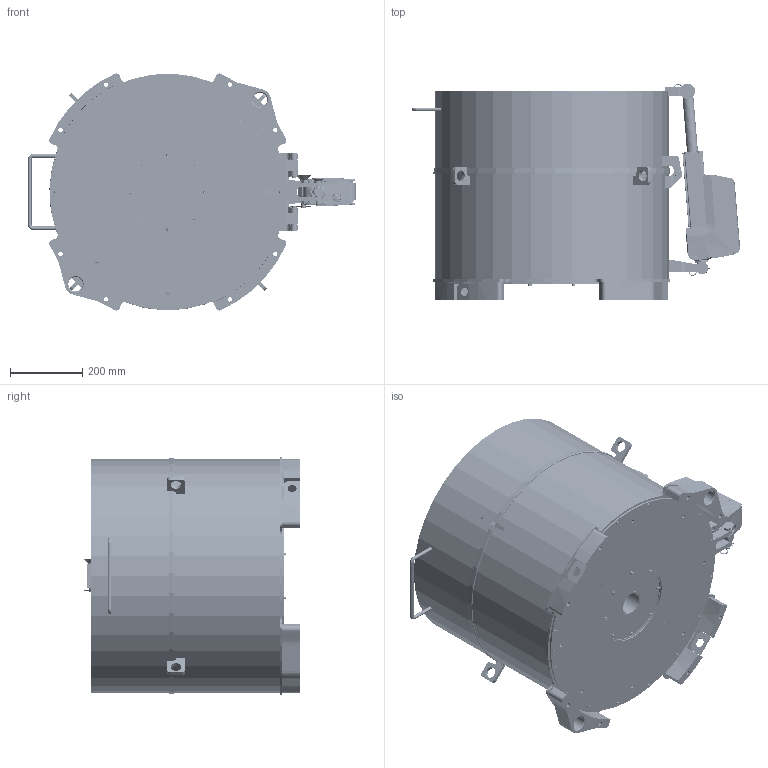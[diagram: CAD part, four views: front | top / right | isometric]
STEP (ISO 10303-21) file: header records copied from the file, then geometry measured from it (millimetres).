
FILE_DESCRIPTION (( 'STEP AP214' ), '1' );
FILE_NAME ('304-83-04-00-00-00.STEP', '2020-12-14T07:50:31', ( '' ), ( '' ), 'SwSTEP 2.0', 'SolidWorks 2016', '' );
FILE_SCHEMA (( 'AUTOMOTIVE_DESIGN' ));
Length unit declared in the file: millimetre
Products named in the file (74): 304-83-04-01-03-00; 304-83-04-08-03-00; 304-83-04-01-00-00; 304-83-04-03-00-00; 304-83-04-01-04-00; 304-83-04-05-00-00; 304-83-04-02-01-00; 304-83-04-10-07-00; 304-83-04-02-00-00; 304-83-04-10-05-00; O ring S7426 -D191; 304-83-04-08-01-00; 304-83-04-09-00-00; 304-83-04-01-07-00; 304-83-04-10-01-00; 304-83-04-01-05-00; 304-83-04-08-02-00; 304-83-04-01-01-00; 304-83-04-02-06-00; Vijak DIN 933_ISO 4017 - M5 x 16-CA2; 304-83-04-00-00-00; lezaj 61838; 304-83-04-10-04-00; O ring 01 S2,62 D44,12; HMPi04-002-024-30-0PIM2I17E0416; 304-83-04-02-05-00; Elastièna podloška DIN 127_Spring washer DIN 128 - A4; Imbus vijak DIN 912_DIN 912 M5 x 16 --- 16C8.8 Zn; 304-83-04-12-00-00; 304-83-04-08-00-00; 304-83-04-01-02-00; Elastièna podloška DIN 127_Spring washer DIN 128 - A5; HD24B045-0150CNO2MMSD_kuciste; EMKA - 1010-S19-FR01; Imbus vijak DIN 912_DIN 912 M5 x 12 --- 12C8.8 Zn; Uvrtni imbus vijak s ravnim završetkom DIN 913_DIN 913 - M4 x 6-C8.8 Zn; Pin DIN 7 h8, D6x16; 304-83-04-05-01-00; 304-83-04-01-04-02; Imbus vijak DIN 912_DIN 912 M4 x 10 --- 10C8.8 Zn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
Assembly tree (227 placements, depth 4):
  304-83-04-00-00-00
    304-83-04-01-00-00
      304-83-04-01-01-00
      304-83-04-01-01-00
      304-83-04-01-02-00
      304-83-04-01-03-00  x4
      304-83-04-01-04-00  x2
        304-83-04-01-04-01
        304-83-04-01-04-02
      304-83-04-01-05-00  x2
      304-83-04-01-06-00
      304-83-04-01-07-00
    304-83-04-02-00-00
      304-83-04-02-01-00
      304-83-04-02-02-00
      304-83-04-02-03-00
      304-83-04-02-04-00
      304-83-04-02-05-00
      304-83-04-02-06-00
    304-83-04-03-00-00
    304-83-04-04-00-00
    304-83-04-05-00-00
      304-83-04-05-01-00
      304-83-04-05-02-00
    304-83-04-06-00-00  x9
    304-83-04-07-00-00  x9
    304-83-04-08-00-00
      304-83-04-08-01-00
      304-83-04-08-02-00
      304-83-04-08-03-00
    304-83-04-09-00-00
    304-83-04-10-00-00
      304-83-04-10-01-00
      304-83-04-10-01-00
      304-83-04-10-02-00
      304-83-04-10-03-00
      304-83-04-10-04-00
      304-83-04-10-05-00
      304-83-04-10-06-00
      304-83-04-10-07-00
    304-83-04-11-00-00
    304-83-04-12-00-00  x2
    304-83-04-13-00-00
    304-83-04-14-00-00
      304-83-04-14-01-00
      304-83-04-14-02-00
    Elastièna podloška DIN 127_Spring washer DIN 128 - A8  x9
    Elastièna podloška DIN 127_Spring washer DIN 128 - A5  x32
    Imbus vijak DIN 912_DIN 912 M5 x 12 --- 12C8.8 Zn  x8
    Imbus vijak DIN 912_DIN 912 M8 x 30 --- 30C8.8 Zn  x9
    Imbus vijak DIN 912_DIN 912 M5 x 16 --- 16C8.8 Zn  x44
    Imbus vijak DIN 912_DIN 912 M4 x 8 --- 8C8.8 Zn  x13
    Uskoènik vanjski DIN 471_Circlip DIN 471 - 10 x 1  x2
    Uskoènik vanjski DIN 471_Circlip DIN 471 - 190 x 4
    Uvrtni imbus vijak s ravnim završetkom DIN 913_DIN 913 - M4 x 6-C8.8 Zn
    O ring S7426 -D250
    O ring S7426 -D184
    O ring S7426 -D191
    O ring 01 S2,62 D240,97
    萫p 0,375
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Bounding box: 906.76 x 598.17 x 655.07 mm (x, y, z)
Volume: 23400898.8 mm3; surface area: 6877731.2 mm2
Topology: 229 solids, 239 shells, 7873 faces, 19817 edges, 12626 vertices
Faces by surface type: plane 3532, cylinder 2592, bspline 641, cone 556, torus 506, sphere 46
Full cylindrical faces by diameter (mm): 0.2 x8, 0.5 x8, 1 x12, 1.175 x12, 1.5 x4, 1.7 x2, 2.4 x2, 2.5 x2, 2.625 x4, 2.8 x6, 3 x5, 3.2 x3, 3.3 x14, 3.4 x8, 3.8 x4, 4 x18, 4.2 x70, 4.3 x1, 4.5 x20, 4.85 x14, 5 x68, 5.2 x6, 5.5 x77, 6 x8, 6.5 x2, 6.8 x9, 7 x15, 7.5 x2, 8 x27, 8.5 x52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
Entity records: 243851 total; most frequent: CARTESIAN_POINT 82128, ORIENTED_EDGE 25521, DIRECTION 21194, EDGE_CURVE 12762, VERTEX_POINT 8728, AXIS2_PLACEMENT_3D 8170, EDGE_LOOP 6665, FACE_OUTER_BOUND 5826
